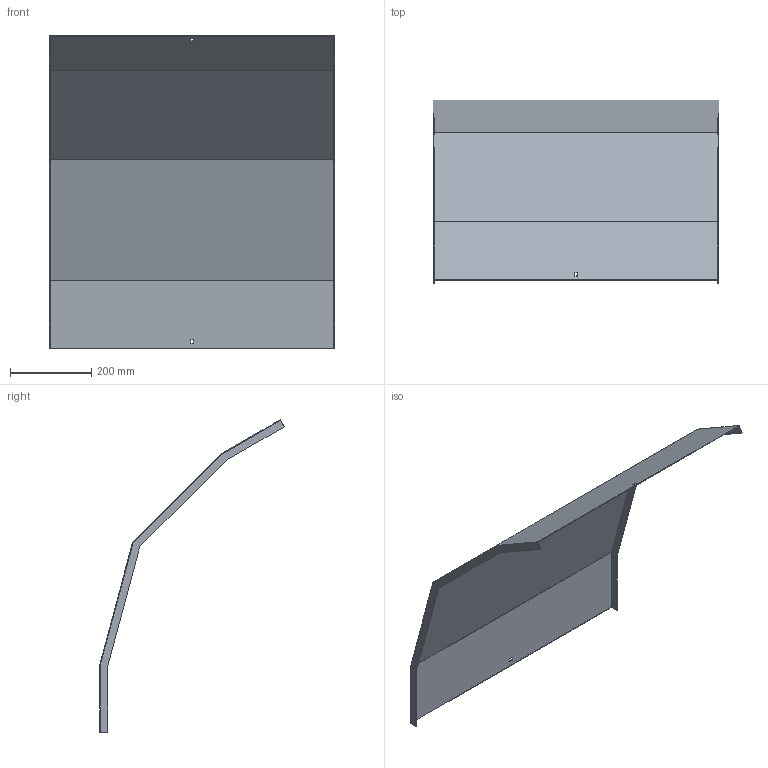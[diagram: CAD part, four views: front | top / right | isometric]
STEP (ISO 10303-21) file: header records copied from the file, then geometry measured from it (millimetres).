
FILE_DESCRIPTION (( 'STEP AP214' ), '1' );
FILE_NAME ('41N5J700.step', '2025-02-21T10:38:54', ( '' ), ( '' ), 'SwSTEP 2.0', 'SolidWorks 2023', '' );
FILE_SCHEMA (( 'AUTOMOTIVE_DESIGN' ));
Length unit declared in the file: millimetre
Products named in the file (1): 41N5J700
Bounding box: 703 x 454.7 x 770.25 mm (x, y, z)
Volume: 1058678 mm3; surface area: 1416688 mm2
Topology: 1 solids, 1 shells, 30 faces, 84 edges, 56 vertices
Faces by surface type: plane 30
Entity records: 979 total; most frequent: CARTESIAN_POINT 171, ORIENTED_EDGE 168, DIRECTION 146, LINE 84, EDGE_CURVE 84, VECTOR 84, VERTEX_POINT 56, EDGE_LOOP 34
